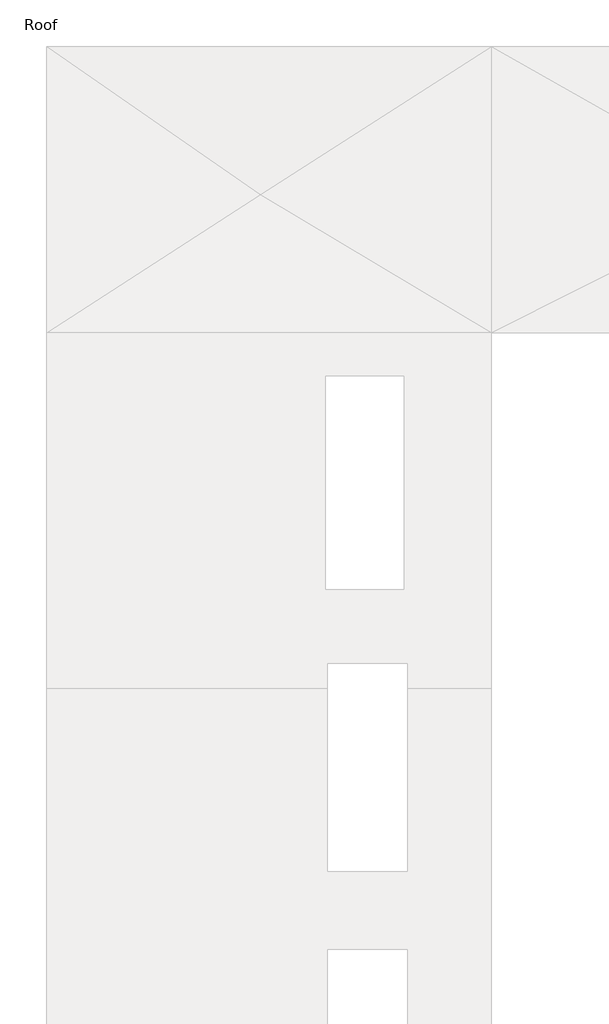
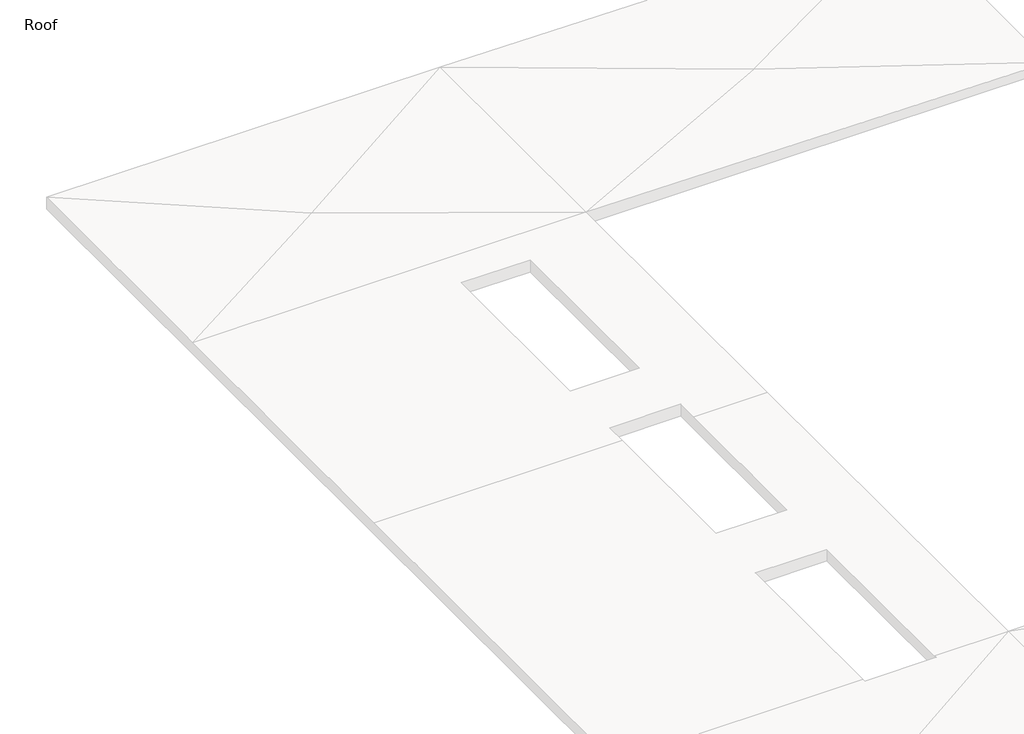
# One storey, part 6 of 7: 18 beams.
"""IFC4 building model written with IfcOpenShell, lengths in millimetres."""

from ifc_helpers import new_model, si_unit, point, frame, frame_2d, origin, place, context, project, spatial, polyline, circle_curve, trimmed, segment, composite_curve, outline, extrude, element, save
from ifc_brep_helpers import plane_surface, revolved_surface, advanced_brep

model = new_model("IFC4")

# Units and contexts
model_context = context("Model", 3, world=origin())
ifc_project = project(units=[si_unit("LENGTHUNIT", "METRE", prefix="MILLI")], contexts=[model_context])

# Site, building, storey
site = spatial("IfcSite", under=ifc_project)
building = spatial("IfcBuilding", under=site)
storey = spatial("IfcBuildingStorey", under=building, Name="Roof", Elevation=11400.0)

# Beams
placement = place(None, origin())
element("IfcBeam", 1, ObjectType="M_Concrete-Rectangular Beam : 400 x 800mm", at=placement, inside=storey, context=model_context, shape_type="AdvancedBrep", body=[
    advanced_brep(
    [(-9401.9994416, 29890.6609793, 10600.0), (-9401.9994416, 22781.6162606, 10600.0), (-9401.9994416, 22781.6162606, 11000.0), (-9401.9994416, 29890.6609793, 11000.0), (-9001.9994416, 29890.6609793, 10600.0), (-9001.9994416, 29793.7386199, 10600.0), (-9001.9994416, 28364.9386199, 10600.0), (-9001.9994416, 27964.9386199, 10600.0), (-9001.9994416, 26536.1386199, 10600.0), (-9001.9994416, 26136.1386199, 10600.0), (-9001.9994416, 24707.3386199, 10600.0), (-9001.9994416, 24307.3386199, 10600.0), (-9001.9994416, 22878.5386199, 10600.0), (-9001.9994416, 22781.6162606, 10600.0), (-9001.9994416, 29890.6609793, 11000.0), (-9001.9994416, 29793.7386199, 11000.0), (-9001.9994416, 28364.9386199, 11000.0), (-9001.9994416, 27964.9386199, 11000.0), (-9001.9994416, 26536.1386199, 11000.0), (-9001.9994416, 26136.1386199, 11000.0), (-9001.9994416, 24707.3386199, 11000.0), (-9001.9994416, 24307.3386199, 11000.0), (-9001.9994416, 22878.5386199, 11000.0), (-9001.9994416, 22781.6162606, 11000.0)],
    [
        (0, 1),
        (1, 2),
        (2, 3),
        (3, 0),
        (0, 4, circle_curve(frame((-9201.9994416, 29993.7386199, 10600.0), z_axis=(0.0, 0.0, 1.0), x_axis=(-1.0, 0.0, 0.0)), 225.0)),
        (4, 5),
        (5, 6),
        (6, 7),
        (7, 8),
        (8, 9),
        (9, 10),
        (10, 11),
        (11, 12),
        (12, 13),
        (13, 1, circle_curve(frame((-9201.9994416, 22678.5386199, 10600.0), z_axis=(0.0, 0.0, 1.0), x_axis=(-1.0, 0.0, 0.0)), 225.0)),
        (4, 14),
        (14, 15),
        (15, 16),
        (16, 17),
        (17, 18),
        (18, 19),
        (19, 20),
        (20, 21),
        (21, 22),
        (22, 23),
        (23, 13),
        (3, 14, circle_curve(frame((-9201.9994416, 29993.7386199, 11000.0), z_axis=(0.0, 0.0, 1.0), x_axis=(-1.0, 0.0, 0.0)), 225.0)),
        (23, 2, circle_curve(frame((-9201.9994416, 22678.5386199, 11000.0), z_axis=(0.0, 0.0, 1.0), x_axis=(-1.0, 0.0, 0.0)), 225.0)),
    ],
    [
        plane_surface(frame((-9401.9994416, 22916.2386199, 11400.0), z_axis=(-1.0, 0.0, 0.0), x_axis=(0.0, 1.0, 0.0))),
        plane_surface(frame((-9401.9994416, 22916.2386199, 10600.0), z_axis=(0.0, 0.0, -1.0), x_axis=(0.0, 1.0, 0.0))),
        plane_surface(frame((-9001.9994416, 22916.2386199, 10600.0), z_axis=(1.0, 0.0, 0.0), x_axis=(0.0, 1.0, 0.0))),
        revolved_surface(polyline([(-9426.9994416, 29993.7386199, 11000.0), (-9426.9994416, 29993.7386199, 10600.0)]), (-9201.9994416, 29993.7386199, 7600.0), (0.0, 0.0, 1.0)),
        revolved_surface(polyline([(-9426.9994416, 22678.5386199, 11000.0), (-9426.9994416, 22678.5386199, 10600.0)]), (-9201.9994416, 22678.5386199, 7600.0), (0.0, 0.0, 1.0)),
        plane_surface(frame((27511.8999097, 22114.0407562, 11000.0), z_axis=(0.0, 0.0, 1.0), x_axis=(0.0, -1.0, 0.0))),
    ],
    [
        (0, [[1, 2, 3, 4]]),
        (1, [[5, 6, 7, 8, 9, 10, 11, 12, 13, 14, 15, -1]]),
        (2, [[-14, -13, -12, -11, -10, -9, -8, -7, -6, 16, 17, 18, 19, 20, 21, 22, 23, 24, 25, 26]]),
        (3, [[-5, -4, 27, -16]]),
        (4, [[-15, -26, 28, -2]]),
        (5, [[-3, -28, -25, -24, -23, -22, -21, -20, -19, -18, -17, -27]]),
    ],
),
])
element("IfcBeam", 2, ObjectType="M_Concrete-Rectangular Beam : 400 x 800mm", at=placement, inside=storey, context=model_context, shape_type="AdvancedBrep", body=[
    advanced_brep(
    [(554.8005584, 19324.2609793, 10600.0), (554.8005584, 19227.3386199, 10600.0), (554.8005584, 13328.1386199, 10600.0), (554.8005584, 13231.2162606, 10600.0), (554.8005584, 13231.2162606, 11000.0), (554.8005584, 13328.1386199, 11000.0), (554.8005584, 19227.3386199, 11000.0), (554.8005584, 19324.2609793, 11000.0), (857.878199, 19227.3386199, 10600.0), (954.8005584, 19227.3386199, 10600.0), (954.8005584, 13231.2162606, 10600.0), (954.8005584, 19227.3386199, 11000.0), (954.8005584, 13231.2162606, 11000.0), (857.878199, 19227.3386199, 11000.0)],
    [
        (0, 1),
        (1, 2),
        (2, 3),
        (3, 4),
        (4, 5),
        (5, 6),
        (6, 7),
        (7, 0),
        (0, 8, circle_curve(frame((754.8005584, 19427.3386199, 10600.0), z_axis=(0.0, 0.0, 1.0), x_axis=(-1.0, 0.0, 0.0)), 225.0)),
        (8, 9),
        (9, 10),
        (10, 3, circle_curve(frame((754.8005584, 13128.1386199, 10600.0), z_axis=(0.0, 0.0, 1.0), x_axis=(-1.0, 0.0, 0.0)), 225.0)),
        (9, 11),
        (11, 12),
        (12, 10),
        (7, 13, circle_curve(frame((754.8005584, 19427.3386199, 11000.0), z_axis=(0.0, 0.0, 1.0), x_axis=(-1.0, 0.0, 0.0)), 225.0)),
        (13, 8),
        (13, 11),
        (12, 4, circle_curve(frame((754.8005584, 13128.1386199, 11000.0), z_axis=(0.0, 0.0, 1.0), x_axis=(-1.0, 0.0, 0.0)), 225.0)),
    ],
    [
        plane_surface(frame((554.8005584, 13365.8386199, 11000.0), z_axis=(-1.0, 0.0, 0.0), x_axis=(0.0, 0.0, -1.0))),
        plane_surface(frame((754.8005584, 13365.8386199, 10600.0), z_axis=(0.0, 0.0, -1.0), x_axis=(1.0, 0.0, 0.0))),
        plane_surface(frame((954.8005584, 13365.8386199, 11000.0), z_axis=(1.0, 0.0, 0.0), x_axis=(0.0, 0.0, 1.0))),
        revolved_surface(polyline([(529.8005584, 19427.3386199, 11000.0), (529.8005584, 19427.3386199, 10600.0)]), (754.8005584, 19427.3386199, 7600.0), (0.0, 0.0, 1.0)),
        plane_surface(frame((992.5005584, 19227.3386199, 11000.0), z_axis=(0.0, 1.0, 0.0), x_axis=(0.0, 0.0, 1.0))),
        revolved_surface(polyline([(529.8005584, 13128.1386199, 11000.0), (529.8005584, 13128.1386199, 10600.0)]), (754.8005584, 13128.1386199, 7600.0), (0.0, 0.0, 1.0)),
        plane_surface(frame((27511.8999097, 22114.0407562, 11000.0), z_axis=(0.0, 0.0, 1.0), x_axis=(0.0, -1.0, 0.0))),
    ],
    [
        (0, [[1, 2, 3, 4, 5, 6, 7, 8]]),
        (1, [[9, 10, 11, 12, -3, -2, -1]]),
        (2, [[-11, 13, 14, 15]]),
        (3, [[-9, -8, 16, 17]]),
        (4, [[-10, -17, 18, -13]]),
        (5, [[-12, -15, 19, -4]]),
        (6, [[-7, -6, -5, -19, -14, -18, -16]]),
    ],
),
])
element("IfcBeam", 3, ObjectType="M_Concrete-Rectangular Beam : 400 x 800mm", at=placement, inside=storey, context=model_context, shape_type="AdvancedBrep", body=[
    advanced_brep(
    [(554.8005584, 8752.0162606, 10600.0), (554.8005584, 8752.0162606, 11000.0), (554.8005584, 8848.9386199, 11000.0), (554.8005584, 12928.1386199, 11000.0), (554.8005584, 12928.1386199, 10600.0), (554.8005584, 8848.9386199, 10600.0), (954.8005584, 13025.0609793, 10600.0), (954.8005584, 8848.9386199, 10600.0), (954.8005584, 8752.0162606, 10600.0), (651.7229178, 12928.1386199, 10600.0), (954.8005584, 13025.0609793, 11000.0), (954.8005584, 8848.9386199, 11000.0), (954.8005584, 8752.0162606, 11000.0), (651.7229178, 12928.1386199, 11000.0)],
    [
        (0, 1),
        (1, 2),
        (2, 3),
        (3, 4),
        (4, 5),
        (5, 0),
        (6, 7),
        (7, 8),
        (8, 0, circle_curve(frame((754.8005584, 8648.9386199, 10600.0), z_axis=(0.0, 0.0, 1.0), x_axis=(1.0, 0.0, 0.0)), 225.0)),
        (4, 9),
        (9, 6, circle_curve(frame((754.8005584, 13128.1386199, 10600.0), z_axis=(0.0, 0.0, 1.0), x_axis=(-1.0, 0.0, 0.0)), 225.0)),
        (6, 10),
        (10, 11),
        (11, 12),
        (12, 8),
        (9, 13),
        (13, 10, circle_curve(frame((754.8005584, 13128.1386199, 11000.0), z_axis=(0.0, 0.0, 1.0), x_axis=(-1.0, 0.0, 0.0)), 225.0)),
        (12, 1, circle_curve(frame((754.8005584, 8648.9386199, 11000.0), z_axis=(0.0, 0.0, 1.0), x_axis=(1.0, 0.0, 0.0)), 225.0)),
        (13, 3),
    ],
    [
        plane_surface(frame((554.8005584, 8886.6386199, 11000.0), z_axis=(-1.0, 0.0, 0.0), x_axis=(0.0, 0.0, -1.0))),
        plane_surface(frame((754.8005584, 8886.6386199, 10600.0), z_axis=(0.0, 0.0, -1.0), x_axis=(1.0, 0.0, 0.0))),
        plane_surface(frame((954.8005584, 8886.6386199, 11000.0), z_axis=(1.0, 0.0, 0.0), x_axis=(0.0, 0.0, 1.0))),
        revolved_surface(polyline([(529.8005584, 13128.1386199, 11000.0), (529.8005584, 13128.1386199, 10600.0)]), (754.8005584, 13128.1386199, 7600.0), (0.0, 0.0, 1.0)),
        revolved_surface(polyline([(979.8005584, 8648.9386199, 11000.0), (979.8005584, 8648.9386199, 10600.0)]), (754.8005584, 8648.9386199, 7600.0), (0.0, 0.0, 1.0)),
        plane_surface(frame((27511.8999097, 22114.0407562, 11000.0), z_axis=(0.0, 0.0, 1.0), x_axis=(0.0, -1.0, 0.0))),
        plane_surface(frame((-1649.0994416, 12928.1386199, 11000.0), z_axis=(0.0, 1.0, 0.0), x_axis=(0.0, 0.0, 1.0))),
    ],
    [
        (0, [[1, 2, 3, 4, 5, 6]]),
        (1, [[7, 8, 9, -6, -5, 10, 11]]),
        (2, [[-8, -7, 12, 13, 14, 15]]),
        (3, [[-12, -11, 16, 17]]),
        (4, [[-9, -15, 18, -1]]),
        (5, [[-14, -13, -17, 19, -3, -2, -18]]),
        (6, [[-4, -19, -16, -10]]),
    ],
),
])
element("IfcBeam", 4, ObjectType="M_Concrete-Rectangular Beam : 400 x 800mm", at=placement, inside=storey, context=model_context, shape_type="AdvancedBrep", body=[
    advanced_brep(
    [(554.8005584, 8448.9386199, 10600.0), (554.8005584, 7028.9386199, 10600.0), (554.8005584, 6932.0162606, 10600.0), (554.8005584, 6932.0162606, 11000.0), (554.8005584, 7028.9386199, 11000.0), (554.8005584, 8448.9386199, 11000.0), (954.8005584, 6932.0162606, 10600.0), (651.7229178, 8448.9386199, 10600.0), (954.8005584, 8545.8609793, 10600.0), (954.8005584, 8448.9386199, 10600.0), (954.8005584, 8545.8609793, 11000.0), (954.8005584, 8448.9386199, 11000.0), (954.8005584, 6932.0162606, 11000.0), (651.7229178, 8448.9386199, 11000.0)],
    [
        (0, 1),
        (1, 2),
        (2, 3),
        (3, 4),
        (4, 5),
        (5, 0),
        (6, 2, circle_curve(frame((754.8005584, 6828.9386199, 10600.0), z_axis=(0.0, 0.0, 1.0), x_axis=(-1.0, 0.0, 0.0)), 225.0)),
        (0, 7),
        (7, 8, circle_curve(frame((754.8005584, 8648.9386199, 10600.0), z_axis=(0.0, 0.0, 1.0), x_axis=(1.0, 0.0, 0.0)), 225.0)),
        (8, 9),
        (9, 6),
        (8, 10),
        (10, 11),
        (11, 12),
        (12, 6),
        (12, 3, circle_curve(frame((754.8005584, 6828.9386199, 11000.0), z_axis=(0.0, 0.0, 1.0), x_axis=(-1.0, 0.0, 0.0)), 225.0)),
        (7, 13),
        (13, 10, circle_curve(frame((754.8005584, 8648.9386199, 11000.0), z_axis=(0.0, 0.0, 1.0), x_axis=(1.0, 0.0, 0.0)), 225.0)),
        (5, 13),
    ],
    [
        plane_surface(frame((554.8005584, 7066.6386199, 11000.0), z_axis=(-1.0, 0.0, 0.0), x_axis=(0.0, 0.0, -1.0))),
        plane_surface(frame((754.8005584, 7066.6386199, 10600.0), z_axis=(0.0, 0.0, -1.0), x_axis=(1.0, 0.0, 0.0))),
        plane_surface(frame((954.8005584, 7066.6386199, 11000.0), z_axis=(1.0, 0.0, 0.0), x_axis=(0.0, 0.0, 1.0))),
        revolved_surface(polyline([(529.8005584, 6828.9386199, 11000.0), (529.8005584, 6828.9386199, 10600.0)]), (754.8005584, 6828.9386199, 7600.0), (0.0, 0.0, 1.0)),
        revolved_surface(polyline([(979.8005584, 8648.9386199, 11000.0), (979.8005584, 8648.9386199, 10600.0)]), (754.8005584, 8648.9386199, 7600.0), (0.0, 0.0, 1.0)),
        plane_surface(frame((517.1005584, 8448.9386199, 11000.0), z_axis=(0.0, 1.0, 0.0), x_axis=(0.0, 0.0, -1.0))),
        plane_surface(frame((27511.8999097, 22114.0407562, 11000.0), z_axis=(0.0, 0.0, 1.0), x_axis=(0.0, -1.0, 0.0))),
    ],
    [
        (0, [[1, 2, 3, 4, 5, 6]]),
        (1, [[7, -2, -1, 8, 9, 10, 11]]),
        (2, [[-11, -10, 12, 13, 14, 15]]),
        (3, [[-7, -15, 16, -3]]),
        (4, [[-9, 17, 18, -12]]),
        (5, [[-8, -6, 19, -17]]),
        (6, [[-5, -4, -16, -14, -13, -18, -19]]),
    ],
),
])
element("IfcBeam", 5, ObjectType="M_Concrete-Rectangular Beam : 400 x 800mm", at=placement, inside=storey, context=model_context, shape_type="AdvancedBrep", body=[
    advanced_brep(
    [(554.8005584, 632.8162606, 10600.0), (554.8005584, 632.8162606, 11000.0), (554.8005584, 729.7386199, 11000.0), (554.8005584, 6628.9386199, 11000.0), (554.8005584, 6628.9386199, 10600.0), (554.8005584, 729.7386199, 10600.0), (954.8005584, 6725.8609793, 10600.0), (954.8005584, 632.8162606, 10600.0), (651.7229178, 6628.9386199, 10600.0), (954.8005584, 6725.8609793, 11000.0), (954.8005584, 632.8162606, 11000.0), (651.7229178, 6628.9386199, 11000.0)],
    [
        (0, 1),
        (1, 2),
        (2, 3),
        (3, 4),
        (4, 5),
        (5, 0),
        (6, 7),
        (7, 0, circle_curve(frame((754.8005584, 529.7386199, 10600.0), z_axis=(0.0, 0.0, 1.0), x_axis=(-1.0, 0.0, 0.0)), 225.0)),
        (4, 8),
        (8, 6, circle_curve(frame((754.8005584, 6828.9386199, 10600.0), z_axis=(0.0, 0.0, 1.0), x_axis=(-1.0, 0.0, 0.0)), 225.0)),
        (6, 9),
        (9, 10),
        (10, 7),
        (8, 11),
        (11, 9, circle_curve(frame((754.8005584, 6828.9386199, 11000.0), z_axis=(0.0, 0.0, 1.0), x_axis=(-1.0, 0.0, 0.0)), 225.0)),
        (10, 1, circle_curve(frame((754.8005584, 529.7386199, 11000.0), z_axis=(0.0, 0.0, 1.0), x_axis=(-1.0, 0.0, 0.0)), 225.0)),
        (11, 3),
    ],
    [
        plane_surface(frame((554.8005584, 767.4386199, 11000.0), z_axis=(-1.0, 0.0, 0.0), x_axis=(0.0, 0.0, -1.0))),
        plane_surface(frame((754.8005584, 767.4386199, 10600.0), z_axis=(0.0, 0.0, -1.0), x_axis=(1.0, 0.0, 0.0))),
        plane_surface(frame((954.8005584, 767.4386199, 11000.0), z_axis=(1.0, 0.0, 0.0), x_axis=(0.0, 0.0, 1.0))),
        revolved_surface(polyline([(529.8005584, 6828.9386199, 11000.0), (529.8005584, 6828.9386199, 10600.0)]), (754.8005584, 6828.9386199, 7600.0), (0.0, 0.0, 1.0)),
        revolved_surface(polyline([(529.8005584, 529.7386199, 11000.0), (529.8005584, 529.7386199, 10600.0)]), (754.8005584, 529.7386199, 7600.0), (0.0, 0.0, 1.0)),
        plane_surface(frame((27511.8999097, 22114.0407562, 11000.0), z_axis=(0.0, 0.0, 1.0), x_axis=(0.0, -1.0, 0.0))),
        plane_surface(frame((-1649.0994416, 6628.9386199, 11000.0), z_axis=(0.0, 1.0, 0.0), x_axis=(0.0, 0.0, 1.0))),
    ],
    [
        (0, [[1, 2, 3, 4, 5, 6]]),
        (1, [[7, 8, -6, -5, 9, 10]]),
        (2, [[-7, 11, 12, 13]]),
        (3, [[-11, -10, 14, 15]]),
        (4, [[-8, -13, 16, -1]]),
        (5, [[-12, -15, 17, -3, -2, -16]]),
        (6, [[-4, -17, -14, -9]]),
    ],
),
])
element("IfcBeam", 6, ObjectType="M_Concrete-Rectangular Beam : 400 x 800mm", at=placement, inside=storey, context=model_context, shape_type="AdvancedBrep", body=[
    advanced_brep(
    [(6447.6005584, 13025.0609793, 10600.0), (6447.6005584, 8848.9386199, 10600.0), (6447.6005584, 8752.0162606, 10600.0), (6447.6005584, 8752.0162606, 11000.0), (6447.6005584, 8848.9386199, 11000.0), (6447.6005584, 13025.0609793, 11000.0), (6847.6005584, 13025.0609793, 10600.0), (6847.6005584, 8752.0162606, 10600.0), (6847.6005584, 13025.0609793, 11000.0), (6847.6005584, 8752.0162606, 11000.0)],
    [
        (0, 1),
        (1, 2),
        (2, 3),
        (3, 4),
        (4, 5),
        (5, 0),
        (0, 6, circle_curve(frame((6647.6005584, 13128.1386199, 10600.0), z_axis=(0.0, 0.0, 1.0), x_axis=(-1.0, 0.0, 0.0)), 225.0)),
        (6, 7),
        (7, 2, circle_curve(frame((6647.6005584, 8648.9386199, 10600.0), z_axis=(0.0, 0.0, 1.0), x_axis=(1.0, 0.0, 0.0)), 225.0)),
        (6, 8),
        (8, 9),
        (9, 7),
        (5, 8, circle_curve(frame((6647.6005584, 13128.1386199, 11000.0), z_axis=(0.0, 0.0, 1.0), x_axis=(-1.0, 0.0, 0.0)), 225.0)),
        (9, 3, circle_curve(frame((6647.6005584, 8648.9386199, 11000.0), z_axis=(0.0, 0.0, 1.0), x_axis=(1.0, 0.0, 0.0)), 225.0)),
    ],
    [
        plane_surface(frame((6447.6005584, 8886.6386199, 11000.0), z_axis=(-1.0, 0.0, 0.0), x_axis=(0.0, 0.0, -1.0))),
        plane_surface(frame((6647.6005584, 8886.6386199, 10600.0), z_axis=(0.0, 0.0, -1.0), x_axis=(1.0, 0.0, 0.0))),
        plane_surface(frame((6847.6005584, 8886.6386199, 11000.0), z_axis=(1.0, 0.0, 0.0), x_axis=(0.0, 0.0, 1.0))),
        revolved_surface(polyline([(6422.6005584, 13128.1386199, 11000.0), (6422.6005584, 13128.1386199, 10600.0)]), (6647.6005584, 13128.1386199, 7600.0), (0.0, 0.0, 1.0)),
        revolved_surface(polyline([(6872.6005584, 8648.9386199, 11000.0), (6872.6005584, 8648.9386199, 10600.0)]), (6647.6005584, 8648.9386199, 7600.0), (0.0, 0.0, 1.0)),
        plane_surface(frame((27511.8999097, 22114.0407562, 11000.0), z_axis=(0.0, 0.0, 1.0), x_axis=(0.0, -1.0, 0.0))),
    ],
    [
        (0, [[1, 2, 3, 4, 5, 6]]),
        (1, [[7, 8, 9, -2, -1]]),
        (2, [[-8, 10, 11, 12]]),
        (3, [[-7, -6, 13, -10]]),
        (4, [[-9, -12, 14, -3]]),
        (5, [[-5, -4, -14, -11, -13]]),
    ],
),
])
element("IfcBeam", 7, ObjectType="M_Concrete-Rectangular Beam : 400 x 800mm", at=placement, inside=storey, context=model_context, shape_type="SweptSolid", body=[
    extrude(outline(composite_curve([segment(trimmed(circle_curve(frame_2d((6647.6005584, 6828.9386199)), 225.0), [point((6847.6005584, 6932.0162606))], [point((6447.6005584, 6932.0162606))], True, "CARTESIAN"), True, "CONTINUOUS"), segment(polyline([(6447.6005584, 6932.0162606), (6447.6005584, 8448.9386199), (6544.5229178, 8448.9386199)]), True, "CONTINUOUS"), segment(trimmed(circle_curve(frame_2d((6647.6005584, 8648.9386199)), 225.0), [point((6544.5229178, 8448.9386199))], [point((6847.6005584, 8545.8609793))], True, "CARTESIAN"), True, "CONTINUOUS"), segment(polyline([(6847.6005584, 8545.8609793), (6847.6005584, 6932.0162606)]), True, "CONTINUOUS")], self_intersect=False)), frame((0.0, 0.0, 10600.0), z_axis=(0.0, 0.0, 1.0), x_axis=(1.0, 0.0, 0.0)), (0.0, 0.0, 1.0), 400.0),
])
element("IfcBeam", 8, ObjectType="M_Concrete-Rectangular Beam : 400 x 800mm", at=placement, inside=storey, context=model_context, shape_type="SweptSolid", body=[
    extrude(outline(composite_curve([segment(trimmed(circle_curve(frame_2d((6647.6005584, 6828.9386199)), 225.0), [point((6447.6005584, 6725.8609793))], [point((6847.6005584, 6725.8609793))], True, "CARTESIAN"), True, "CONTINUOUS"), segment(polyline([(6847.6005584, 6725.8609793), (6847.6005584, 632.8162606)]), True, "CONTINUOUS"), segment(trimmed(circle_curve(frame_2d((6647.6005584, 529.7386199)), 225.0), [point((6847.6005584, 632.8162606))], [point((6447.6005584, 632.8162606))], True, "CARTESIAN"), True, "CONTINUOUS"), segment(polyline([(6447.6005584, 632.8162606), (6447.6005584, 6725.8609793)]), True, "CONTINUOUS")], self_intersect=False)), frame((0.0, 0.0, 10600.0), z_axis=(0.0, 0.0, 1.0), x_axis=(1.0, 0.0, 0.0)), (0.0, 0.0, 1.0), 400.0),
])
element("IfcBeam", 9, ObjectType="M_Concrete-Rectangular Beam : 400 x 800mm", at=placement, inside=storey, context=model_context, shape_type="SweptSolid", body=[
    extrude(outline(composite_curve([segment(polyline([(554.8005584, 29890.6609793), (554.8005584, 29793.7386199), (-1586.7994416, 29793.7386199), (-1586.7994416, 30193.7386199), (651.7229178, 30193.7386199)]), True, "CONTINUOUS"), segment(trimmed(circle_curve(frame_2d((754.8005584, 29993.7386199)), 225.0), [point((651.7229178, 30193.7386199))], [point((529.8005584, 29993.7386199))], True, "CARTESIAN"), True, "CONTINUOUS"), segment(trimmed(circle_curve(frame_2d((754.8005584, 29993.7386199)), 225.0), [point((529.8005584, 29993.7386199))], [point((554.8005584, 29890.6609793))], True, "CARTESIAN"), True, "CONTINUOUS")], self_intersect=False)), frame((0.0, 0.0, 10600.0), z_axis=(0.0, 0.0, 1.0), x_axis=(1.0, 0.0, 0.0)), (0.0, 0.0, 1.0), 400.0),
])
element("IfcBeam", 10, ObjectType="M_Concrete-Rectangular Beam : 400 x 800mm", at=placement, inside=storey, context=model_context, shape_type="SweptSolid", body=[
    extrude(outline(composite_curve([segment(polyline([(-9001.9994416, 29793.7386199), (-9001.9994416, 29890.6609793)]), True, "CONTINUOUS"), segment(trimmed(circle_curve(frame_2d((-9201.9994416, 29993.7386199)), 225.0), [point((-9001.9994416, 29890.6609793))], [point((-8976.9994416, 29993.7386199))], True, "CARTESIAN"), True, "CONTINUOUS"), segment(trimmed(circle_curve(frame_2d((-9201.9994416, 29993.7386199)), 225.0), [point((-8976.9994416, 29993.7386199))], [point((-9098.921801, 30193.7386199))], True, "CARTESIAN"), True, "CONTINUOUS"), segment(polyline([(-9098.921801, 30193.7386199), (-2186.7994416, 30193.7386199), (-2186.7994416, 29793.7386199), (-9001.9994416, 29793.7386199)]), True, "CONTINUOUS")], self_intersect=False)), frame((0.0, 0.0, 10600.0), z_axis=(0.0, 0.0, 1.0), x_axis=(1.0, 0.0, 0.0)), (0.0, 0.0, 1.0), 400.0),
])
element("IfcBeam", 11, ObjectType="M_Concrete-Rectangular Beam : 400 x 800mm", at=placement, inside=storey, context=model_context, shape_type="SweptSolid", body=[
    extrude(outline(composite_curve([segment(trimmed(circle_curve(frame_2d((754.8005584, 22678.5386199)), 225.0), [point((529.8005584, 22678.5386199))], [point((554.8005584, 22575.4609793))], True, "CARTESIAN"), True, "CONTINUOUS"), segment(polyline([(554.8005584, 22575.4609793), (554.8005584, 22478.5386199), (-1586.7994416, 22478.5386199), (-1586.7994416, 22878.5386199), (554.8005584, 22878.5386199), (554.8005584, 22781.6162606)]), True, "CONTINUOUS"), segment(trimmed(circle_curve(frame_2d((754.8005584, 22678.5386199)), 225.0), [point((554.8005584, 22781.6162606))], [point((529.8005584, 22678.5386199))], True, "CARTESIAN"), True, "CONTINUOUS")], self_intersect=False)), frame((0.0, 0.0, 10600.0), z_axis=(0.0, 0.0, 1.0), x_axis=(1.0, 0.0, 0.0)), (0.0, 0.0, 1.0), 400.0),
])
element("IfcBeam", 12, ObjectType="M_Concrete-Rectangular Beam : 400 x 800mm", at=placement, inside=storey, context=model_context, shape_type="AdvancedBrep", body=[
    advanced_brep(
    [(-2186.7994416, 22878.5386199, 10600.0), (-9001.9994416, 22878.5386199, 10600.0), (-9001.9994416, 22878.5386199, 11000.0), (-2186.7994416, 22878.5386199, 11000.0), (-9001.9994416, 22781.6162606, 10600.0), (-2186.7994416, 22478.5386199, 10600.0), (-3515.5994416, 22478.5386199, 10600.0), (-3915.5994416, 22478.5386199, 10600.0), (-5344.3994416, 22478.5386199, 10600.0), (-5744.3994416, 22478.5386199, 10600.0), (-7173.1994416, 22478.5386199, 10600.0), (-7573.1994416, 22478.5386199, 10600.0), (-9001.9994416, 22478.5386199, 10600.0), (-9098.921801, 22478.5386199, 10600.0), (-8976.9994416, 22678.5386199, 10600.0), (-2186.7994416, 22478.5386199, 11000.0), (-3515.5994416, 22478.5386199, 11000.0), (-3915.5994416, 22478.5386199, 11000.0), (-5344.3994416, 22478.5386199, 11000.0), (-5744.3994416, 22478.5386199, 11000.0), (-7173.1994416, 22478.5386199, 11000.0), (-7573.1994416, 22478.5386199, 11000.0), (-9001.9994416, 22478.5386199, 11000.0), (-9098.921801, 22478.5386199, 11000.0), (-9001.9994416, 22781.6162606, 11000.0), (-8976.9994416, 22678.5386199, 11000.0)],
    [
        (0, 1),
        (1, 2),
        (2, 3),
        (3, 0),
        (4, 1),
        (0, 5),
        (5, 6),
        (6, 7),
        (7, 8),
        (8, 9),
        (9, 10),
        (10, 11),
        (11, 12),
        (12, 13),
        (13, 14, circle_curve(frame((-9201.9994416, 22678.5386199, 10600.0), z_axis=(0.0, 0.0, 1.0), x_axis=(-1.0, 0.0, 0.0)), 225.0)),
        (14, 4, circle_curve(frame((-9201.9994416, 22678.5386199, 10600.0), z_axis=(0.0, 0.0, 1.0), x_axis=(-1.0, 0.0, 0.0)), 225.0)),
        (5, 15),
        (15, 16),
        (16, 17),
        (17, 18),
        (18, 19),
        (19, 20),
        (20, 21),
        (21, 22),
        (22, 23),
        (23, 13),
        (4, 24),
        (24, 2),
        (23, 25, circle_curve(frame((-9201.9994416, 22678.5386199, 11000.0), z_axis=(0.0, 0.0, 1.0), x_axis=(-1.0, 0.0, 0.0)), 225.0)),
        (25, 14),
        (25, 24, circle_curve(frame((-9201.9994416, 22678.5386199, 11000.0), z_axis=(0.0, 0.0, 1.0), x_axis=(-1.0, 0.0, 0.0)), 225.0)),
        (3, 15),
    ],
    [
        plane_surface(frame((-8964.2994416, 22878.5386199, 11400.0), z_axis=(0.0, 1.0, 0.0), x_axis=(1.0, 0.0, 0.0))),
        plane_surface(frame((-8964.2994416, 22878.5386199, 10600.0), z_axis=(0.0, 0.0, -1.0), x_axis=(1.0, 0.0, 0.0))),
        plane_surface(frame((-8964.2994416, 22478.5386199, 10600.0), z_axis=(0.0, -1.0, 0.0), x_axis=(1.0, 0.0, 0.0))),
        plane_surface(frame((-9001.9994416, 22916.2386199, 10600.0), z_axis=(-1.0, 0.0, 0.0), x_axis=(0.0, 1.0, 0.0))),
        revolved_surface(polyline([(-9426.9994416, 22678.5386199, 11000.0), (-9426.9994416, 22678.5386199, 10600.0)]), (-9201.9994416, 22678.5386199, 7600.0), (0.0, 0.0, 1.0)),
        plane_surface(frame((-2186.7994416, 22916.2386199, 11400.0), z_axis=(1.0, 0.0, 0.0), x_axis=(0.0, 1.0, 0.0))),
        plane_surface(frame((27511.8999097, 22114.0407562, 11000.0), z_axis=(0.0, 0.0, 1.0), x_axis=(0.0, -1.0, 0.0))),
    ],
    [
        (0, [[1, 2, 3, 4]]),
        (1, [[5, -1, 6, 7, 8, 9, 10, 11, 12, 13, 14, 15, 16]]),
        (2, [[-14, -13, -12, -11, -10, -9, -8, -7, 17, 18, 19, 20, 21, 22, 23, 24, 25, 26]]),
        (3, [[-5, 27, 28, -2]]),
        (4, [[-15, -26, 29, 30]]),
        (4, [[-16, -30, 31, -27]]),
        (5, [[-6, -4, 32, -17]]),
        (6, [[-3, -28, -31, -29, -25, -24, -23, -22, -21, -20, -19, -18, -32]]),
    ],
),
])
element("IfcBeam", 13, ObjectType="M_Concrete-Rectangular Beam : 400 x 800mm", at=placement, inside=storey, context=model_context, shape_type="AdvancedBrep", body=[
    advanced_brep(
    [(954.8005584, 8448.9386199, 10600.0), (6447.6005584, 8448.9386199, 10600.0), (6544.5229178, 8448.9386199, 10600.0), (6544.5229178, 8448.9386199, 11000.0), (6447.6005584, 8448.9386199, 11000.0), (954.8005584, 8448.9386199, 11000.0), (954.8005584, 8545.8609793, 10600.0), (979.8005584, 8648.9386199, 10600.0), (954.8005584, 8752.0162606, 10600.0), (954.8005584, 8848.9386199, 10600.0), (6447.6005584, 8848.9386199, 10600.0), (6447.6005584, 8752.0162606, 10600.0), (6422.6005584, 8648.9386199, 10600.0), (954.8005584, 8848.9386199, 11000.0), (6447.6005584, 8848.9386199, 11000.0), (979.8005584, 8648.9386199, 11000.0), (954.8005584, 8752.0162606, 11000.0), (954.8005584, 8545.8609793, 11000.0), (6447.6005584, 8752.0162606, 11000.0), (6422.6005584, 8648.9386199, 11000.0)],
    [
        (0, 1),
        (1, 2),
        (2, 3),
        (3, 4),
        (4, 5),
        (5, 0),
        (6, 7, circle_curve(frame((754.8005584, 8648.9386199, 10600.0), z_axis=(0.0, 0.0, 1.0), x_axis=(1.0, 0.0, 0.0)), 225.0)),
        (7, 8, circle_curve(frame((754.8005584, 8648.9386199, 10600.0), z_axis=(0.0, 0.0, 1.0), x_axis=(1.0, 0.0, 0.0)), 225.0)),
        (8, 9),
        (9, 10),
        (10, 11),
        (11, 12, circle_curve(frame((6647.6005584, 8648.9386199, 10600.0), z_axis=(0.0, 0.0, 1.0), x_axis=(1.0, 0.0, 0.0)), 225.0)),
        (12, 2, circle_curve(frame((6647.6005584, 8648.9386199, 10600.0), z_axis=(0.0, 0.0, 1.0), x_axis=(1.0, 0.0, 0.0)), 225.0)),
        (0, 6),
        (9, 13),
        (13, 14),
        (14, 10),
        (7, 15),
        (15, 16, circle_curve(frame((754.8005584, 8648.9386199, 11000.0), z_axis=(0.0, 0.0, 1.0), x_axis=(1.0, 0.0, 0.0)), 225.0)),
        (16, 8),
        (6, 17),
        (17, 15, circle_curve(frame((754.8005584, 8648.9386199, 11000.0), z_axis=(0.0, 0.0, 1.0), x_axis=(1.0, 0.0, 0.0)), 225.0)),
        (5, 17),
        (16, 13),
        (11, 18),
        (18, 19, circle_curve(frame((6647.6005584, 8648.9386199, 11000.0), z_axis=(0.0, 0.0, 1.0), x_axis=(1.0, 0.0, 0.0)), 225.0)),
        (19, 12),
        (19, 3, circle_curve(frame((6647.6005584, 8648.9386199, 11000.0), z_axis=(0.0, 0.0, 1.0), x_axis=(1.0, 0.0, 0.0)), 225.0)),
        (14, 18),
    ],
    [
        plane_surface(frame((6409.9005584, 8448.9386199, 11000.0), z_axis=(0.0, -1.0, 0.0), x_axis=(0.0, 0.0, -1.0))),
        plane_surface(frame((6409.9005584, 8648.9386199, 10600.0), z_axis=(0.0, 0.0, -1.0), x_axis=(0.0, 1.0, 0.0))),
        plane_surface(frame((6409.9005584, 8848.9386199, 11000.0), z_axis=(0.0, 1.0, 0.0), x_axis=(0.0, 0.0, 1.0))),
        revolved_surface(polyline([(979.8005584, 8648.9386199, 11000.0), (979.8005584, 8648.9386199, 10600.0)]), (754.8005584, 8648.9386199, 7600.0), (0.0, 0.0, 1.0)),
        plane_surface(frame((954.8005584, 7066.6386199, 11000.0), z_axis=(-1.0, 0.0, 0.0), x_axis=(0.0, 0.0, 1.0))),
        plane_surface(frame((954.8005584, 8886.6386199, 11000.0), z_axis=(-1.0, 0.0, 0.0), x_axis=(0.0, 0.0, 1.0))),
        revolved_surface(polyline([(6872.6005584, 8648.9386199, 11000.0), (6872.6005584, 8648.9386199, 10600.0)]), (6647.6005584, 8648.9386199, 7600.0), (0.0, 0.0, 1.0)),
        plane_surface(frame((6447.6005584, 8886.6386199, 11000.0), z_axis=(1.0, 0.0, 0.0), x_axis=(0.0, 0.0, -1.0))),
        plane_surface(frame((27511.8999097, 22114.0407562, 11000.0), z_axis=(0.0, 0.0, 1.0), x_axis=(0.0, -1.0, 0.0))),
    ],
    [
        (0, [[1, 2, 3, 4, 5, 6]]),
        (1, [[7, 8, 9, 10, 11, 12, 13, -2, -1, 14]]),
        (2, [[-10, 15, 16, 17]]),
        (3, [[-8, 18, 19, 20]]),
        (3, [[-7, 21, 22, -18]]),
        (4, [[-14, -6, 23, -21]]),
        (5, [[-9, -20, 24, -15]]),
        (6, [[-12, 25, 26, 27]]),
        (6, [[-13, -27, 28, -3]]),
        (7, [[-11, -17, 29, -25]]),
        (8, [[-5, -4, -28, -26, -29, -16, -24, -19, -22, -23]]),
    ],
),
])
element("IfcBeam", 14, ObjectType="M_Concrete-Rectangular Beam : 400 x 800mm", at=placement, inside=storey, context=model_context, shape_type="SweptSolid", body=[
    extrude(outline(polyline([(-9001.9994416, 24307.3386199), (-9001.9994416, 24707.3386199), (-2186.7994416, 24707.3386199), (-2186.7994416, 24307.3386199), (-9001.9994416, 24307.3386199)])), frame((0.0, 0.0, 10600.0), z_axis=(0.0, 0.0, 1.0), x_axis=(1.0, 0.0, 0.0)), (0.0, 0.0, 1.0), 400.0),
])
element("IfcBeam", 15, ObjectType="M_Concrete-Rectangular Beam : 400 x 800mm", at=placement, inside=storey, context=model_context, shape_type="SweptSolid", body=[
    extrude(outline(polyline([(-9001.9994416, 26136.1386199), (-9001.9994416, 26536.1386199), (-2186.7994416, 26536.1386199), (-2186.7994416, 26136.1386199), (-9001.9994416, 26136.1386199)])), frame((0.0, 0.0, 10600.0), z_axis=(0.0, 0.0, 1.0), x_axis=(1.0, 0.0, 0.0)), (0.0, 0.0, 1.0), 400.0),
])
element("IfcBeam", 16, ObjectType="M_Concrete-Rectangular Beam : 400 x 800mm", at=placement, inside=storey, context=model_context, shape_type="SweptSolid", body=[
    extrude(outline(polyline([(-9001.9994416, 27964.9386199), (-9001.9994416, 28364.9386199), (-2186.7994416, 28364.9386199), (-2186.7994416, 27964.9386199), (-9001.9994416, 27964.9386199)])), frame((0.0, 0.0, 10600.0), z_axis=(0.0, 0.0, 1.0), x_axis=(1.0, 0.0, 0.0)), (0.0, 0.0, 1.0), 400.0),
])
element("IfcBeam", 17, ObjectType="M_Concrete-Rectangular Beam : 600 x 900", at=placement, inside=storey, context=model_context, shape_type="AdvancedBrep", body=[
    advanced_brep(
    [(-2186.7994416, 30193.7386199, 10500.0), (-2186.7994416, 22478.5386199, 10500.0), (-2186.7994416, 22478.5386199, 10600.0), (-2186.7994416, 22478.5386199, 11000.0), (-2186.7994416, 22878.5386199, 11000.0), (-2186.7994416, 24307.3386199, 11000.0), (-2186.7994416, 24707.3386199, 11000.0), (-2186.7994416, 26136.1386199, 11000.0), (-2186.7994416, 26536.1386199, 11000.0), (-2186.7994416, 27964.9386199, 11000.0), (-2186.7994416, 28364.9386199, 11000.0), (-2186.7994416, 29793.7386199, 11000.0), (-2186.7994416, 30193.7386199, 11000.0), (-2186.7994416, 30193.7386199, 10600.0), (-1989.8770822, 30193.7386199, 10500.0), (-2111.7994416, 29993.7386199, 10500.0), (-1661.7994416, 29993.7386199, 10500.0), (-1783.721801, 30193.7386199, 10500.0), (-1586.7994416, 30193.7386199, 10500.0), (-1586.7994416, 22478.5386199, 10500.0), (-1783.721801, 22478.5386199, 10500.0), (-1661.7994416, 22678.5386199, 10500.0), (-2111.7994416, 22678.5386199, 10500.0), (-1989.8770822, 22478.5386199, 10500.0), (-1586.7994416, 30193.7386199, 10600.0), (-1586.7994416, 30193.7386199, 11000.0), (-1586.7994416, 29793.7386199, 11000.0), (-1586.7994416, 22878.5386199, 11000.0), (-1586.7994416, 22478.5386199, 11000.0), (-1586.7994416, 22478.5386199, 10600.0), (-1783.721801, 30193.7386199, 11000.0), (-1783.721801, 22478.5386199, 11000.0), (-2111.7994416, 29993.7386199, 11000.0), (-1661.7994416, 29993.7386199, 11000.0), (-1989.8770822, 30193.7386199, 11000.0), (-2111.7994416, 22678.5386199, 11000.0), (-1989.8770822, 22478.5386199, 11000.0), (-1661.7994416, 22678.5386199, 11000.0)],
    [
        (0, 1),
        (1, 2),
        (2, 3),
        (3, 4),
        (4, 5),
        (5, 6),
        (6, 7),
        (7, 8),
        (8, 9),
        (9, 10),
        (10, 11),
        (11, 12),
        (12, 13),
        (13, 0),
        (0, 14),
        (14, 15, circle_curve(frame((-1886.7994416, 29993.7386199, 10500.0), z_axis=(0.0, 0.0, 1.0), x_axis=(-1.0, 0.0, 0.0)), 225.0)),
        (15, 16, circle_curve(frame((-1886.7994416, 29993.7386199, 10500.0), z_axis=(0.0, 0.0, 1.0), x_axis=(-1.0, 0.0, 0.0)), 225.0)),
        (16, 17, circle_curve(frame((-1886.7994416, 29993.7386199, 10500.0), z_axis=(0.0, 0.0, 1.0), x_axis=(-1.0, 0.0, 0.0)), 225.0)),
        (17, 18),
        (18, 19),
        (19, 20),
        (20, 21, circle_curve(frame((-1886.7994416, 22678.5386199, 10500.0), z_axis=(0.0, 0.0, 1.0), x_axis=(-1.0, 0.0, 0.0)), 225.0)),
        (21, 22, circle_curve(frame((-1886.7994416, 22678.5386199, 10500.0), z_axis=(0.0, 0.0, 1.0), x_axis=(-1.0, 0.0, 0.0)), 225.0)),
        (22, 23, circle_curve(frame((-1886.7994416, 22678.5386199, 10500.0), z_axis=(0.0, 0.0, 1.0), x_axis=(-1.0, 0.0, 0.0)), 225.0)),
        (23, 1),
        (18, 24),
        (24, 25),
        (25, 26),
        (26, 27),
        (27, 28),
        (28, 29),
        (29, 19),
        (17, 30),
        (30, 25),
        (28, 31),
        (31, 20),
        (15, 32),
        (32, 33, circle_curve(frame((-1886.7994416, 29993.7386199, 11000.0), z_axis=(0.0, 0.0, 1.0), x_axis=(-1.0, 0.0, 0.0)), 225.0)),
        (33, 16),
        (33, 30, circle_curve(frame((-1886.7994416, 29993.7386199, 11000.0), z_axis=(0.0, 0.0, 1.0), x_axis=(-1.0, 0.0, 0.0)), 225.0)),
        (12, 34),
        (34, 14),
        (34, 32, circle_curve(frame((-1886.7994416, 29993.7386199, 11000.0), z_axis=(0.0, 0.0, 1.0), x_axis=(-1.0, 0.0, 0.0)), 225.0)),
        (22, 35),
        (35, 36, circle_curve(frame((-1886.7994416, 22678.5386199, 11000.0), z_axis=(0.0, 0.0, 1.0), x_axis=(-1.0, 0.0, 0.0)), 225.0)),
        (36, 23),
        (21, 37),
        (37, 35, circle_curve(frame((-1886.7994416, 22678.5386199, 11000.0), z_axis=(0.0, 0.0, 1.0), x_axis=(-1.0, 0.0, 0.0)), 225.0)),
        (36, 3),
        (31, 37, circle_curve(frame((-1886.7994416, 22678.5386199, 11000.0), z_axis=(0.0, 0.0, 1.0), x_axis=(-1.0, 0.0, 0.0)), 225.0)),
    ],
    [
        plane_surface(frame((-2186.7994416, 22916.2386199, 11400.0), z_axis=(-1.0, 0.0, 0.0), x_axis=(0.0, 1.0, 0.0))),
        plane_surface(frame((-2186.7994416, 22916.2386199, 10500.0), z_axis=(0.0, 0.0, -1.0), x_axis=(0.0, 1.0, 0.0))),
        plane_surface(frame((-1586.7994416, 22916.2386199, 10500.0), z_axis=(1.0, 0.0, 0.0), x_axis=(0.0, 1.0, 0.0))),
        plane_surface(frame((-1562.8703581, 30193.7386199, 10600.0), z_axis=(0.0, 1.0, 0.0), x_axis=(-1.0, 0.0, 0.0))),
        plane_surface(frame((-1562.8703581, 22478.5386199, 11400.0), z_axis=(0.0, -1.0, 0.0), x_axis=(-1.0, 0.0, 0.0))),
        revolved_surface(polyline([(-2111.7994416, 29993.7386199, 11000.0), (-2111.7994416, 29993.7386199, 10500.0)]), (-1886.7994416, 29993.7386199, 7600.0), (0.0, 0.0, 1.0)),
        revolved_surface(polyline([(-2111.7994416, 22678.5386199, 11000.0), (-2111.7994416, 22678.5386199, 10500.0)]), (-1886.7994416, 22678.5386199, 7600.0), (0.0, 0.0, 1.0)),
        plane_surface(frame((27511.8999097, 22114.0407562, 11000.0), z_axis=(0.0, 0.0, 1.0), x_axis=(0.0, -1.0, 0.0))),
    ],
    [
        (0, [[1, 2, 3, 4, 5, 6, 7, 8, 9, 10, 11, 12, 13, 14]]),
        (1, [[-1, 15, 16, 17, 18, 19, 20, 21, 22, 23, 24, 25]]),
        (2, [[-20, 26, 27, 28, 29, 30, 31, 32]]),
        (3, [[-19, 33, 34, -27, -26]]),
        (4, [[-21, -32, -31, 35, 36]]),
        (5, [[-17, 37, 38, 39]]),
        (5, [[-18, -39, 40, -33]]),
        (3, [[-15, -14, -13, 41, 42]]),
        (5, [[-16, -42, 43, -37]]),
        (6, [[-24, 44, 45, 46]]),
        (6, [[-23, 47, 48, -44]]),
        (4, [[-25, -46, 49, -3, -2]]),
        (6, [[-22, -36, 50, -47]]),
        (7, [[-12, -11, -10, -9, -8, -7, -6, -5, -4, -49, -45, -48, -50, -35, -30, -29, -28, -34, -40, -38, -43, -41]]),
    ],
),
])
element("IfcBeam", 18, ObjectType="M_Concrete-Rectangular Beam : 600 x 900", at=placement, inside=storey, context=model_context, shape_type="AdvancedBrep", body=[
    advanced_brep(
    [(-2186.7994416, 22478.5386199, 10500.0), (-2186.7994416, 19227.3386199, 10500.0), (-2186.7994416, 19227.3386199, 11000.0), (-2186.7994416, 22478.5386199, 11000.0), (-1989.8770822, 19227.3386199, 10500.0), (-1989.8770822, 22478.5386199, 10500.0), (-1783.721801, 22478.5386199, 10500.0), (-1586.7994416, 22478.5386199, 10500.0), (-1586.7994416, 19227.3386199, 10500.0), (-1783.721801, 19227.3386199, 10500.0), (-1661.7994416, 19427.3386199, 10500.0), (-2111.7994416, 19427.3386199, 10500.0), (-1586.7994416, 22478.5386199, 11000.0), (-1586.7994416, 19627.3386199, 11000.0), (-1586.7994416, 19227.3386199, 11000.0), (-1586.7994416, 19227.3386199, 10600.0), (-1783.721801, 19227.3386199, 11000.0), (-2111.7994416, 19427.3386199, 11000.0), (-1989.8770822, 19227.3386199, 11000.0), (-1661.7994416, 19427.3386199, 11000.0), (-1783.721801, 22478.5386199, 11000.0), (-1989.8770822, 22478.5386199, 11000.0)],
    [
        (0, 1),
        (1, 2),
        (2, 3),
        (3, 0),
        (4, 1),
        (0, 5),
        (5, 6, circle_curve(frame((-1886.7994416, 22678.5386199, 10500.0), z_axis=(0.0, 0.0, 1.0), x_axis=(-1.0, 0.0, 0.0)), 225.0)),
        (6, 7),
        (7, 8),
        (8, 9),
        (9, 10, circle_curve(frame((-1886.7994416, 19427.3386199, 10500.0), z_axis=(0.0, 0.0, 1.0), x_axis=(-1.0, 0.0, 0.0)), 225.0)),
        (10, 11, circle_curve(frame((-1886.7994416, 19427.3386199, 10500.0), z_axis=(0.0, 0.0, 1.0), x_axis=(-1.0, 0.0, 0.0)), 225.0)),
        (11, 4, circle_curve(frame((-1886.7994416, 19427.3386199, 10500.0), z_axis=(0.0, 0.0, 1.0), x_axis=(-1.0, 0.0, 0.0)), 225.0)),
        (7, 12),
        (12, 13),
        (13, 14),
        (14, 15),
        (15, 8),
        (14, 16),
        (16, 9),
        (11, 17),
        (17, 18, circle_curve(frame((-1886.7994416, 19427.3386199, 11000.0), z_axis=(0.0, 0.0, 1.0), x_axis=(-1.0, 0.0, 0.0)), 225.0)),
        (18, 4),
        (10, 19),
        (19, 17, circle_curve(frame((-1886.7994416, 19427.3386199, 11000.0), z_axis=(0.0, 0.0, 1.0), x_axis=(-1.0, 0.0, 0.0)), 225.0)),
        (18, 2),
        (16, 19, circle_curve(frame((-1886.7994416, 19427.3386199, 11000.0), z_axis=(0.0, 0.0, 1.0), x_axis=(-1.0, 0.0, 0.0)), 225.0)),
        (6, 20),
        (20, 12),
        (5, 21),
        (21, 20, circle_curve(frame((-1886.7994416, 22678.5386199, 11000.0), z_axis=(0.0, 0.0, 1.0), x_axis=(-1.0, 0.0, 0.0)), 225.0)),
        (3, 21),
    ],
    [
        plane_surface(frame((-2186.7994416, 19665.0386199, 10950.0), z_axis=(-1.0, 0.0, 0.0), x_axis=(0.0, 0.0, -1.0))),
        plane_surface(frame((-1886.7994416, 19665.0386199, 10500.0), z_axis=(0.0, 0.0, -1.0), x_axis=(1.0, 0.0, 0.0))),
        plane_surface(frame((-1586.7994416, 19665.0386199, 10950.0), z_axis=(1.0, 0.0, 0.0), x_axis=(0.0, 0.0, 1.0))),
        plane_surface(frame((-1562.8703581, 19227.3386199, 11400.0), z_axis=(0.0, -1.0, 0.0), x_axis=(-1.0, 0.0, 0.0))),
        revolved_surface(polyline([(-2111.7994416, 19427.3386199, 11000.0), (-2111.7994416, 19427.3386199, 10500.0)]), (-1886.7994416, 19427.3386199, 7600.0), (0.0, 0.0, 1.0)),
        plane_surface(frame((-1649.0994416, 22478.5386199, 11000.0), z_axis=(0.0, 1.0, 0.0), x_axis=(0.0, 0.0, 1.0))),
        revolved_surface(polyline([(-2111.7994416, 22678.5386199, 11000.0), (-2111.7994416, 22678.5386199, 10500.0)]), (-1886.7994416, 22678.5386199, 7600.0), (0.0, 0.0, 1.0)),
        plane_surface(frame((27511.8999097, 22114.0407562, 11000.0), z_axis=(0.0, 0.0, 1.0), x_axis=(0.0, -1.0, 0.0))),
    ],
    [
        (0, [[1, 2, 3, 4]]),
        (1, [[5, -1, 6, 7, 8, 9, 10, 11, 12, 13]]),
        (2, [[-9, 14, 15, 16, 17, 18]]),
        (3, [[-10, -18, -17, 19, 20]]),
        (4, [[-13, 21, 22, 23]]),
        (4, [[-12, 24, 25, -21]]),
        (3, [[-5, -23, 26, -2]]),
        (4, [[-11, -20, 27, -24]]),
        (5, [[-8, 28, 29, -14]]),
        (6, [[-7, 30, 31, -28]]),
        (5, [[-6, -4, 32, -30]]),
        (7, [[-3, -26, -22, -25, -27, -19, -16, -15, -29, -31, -32]]),
    ],
),
])

save(model, "model.ifc")
